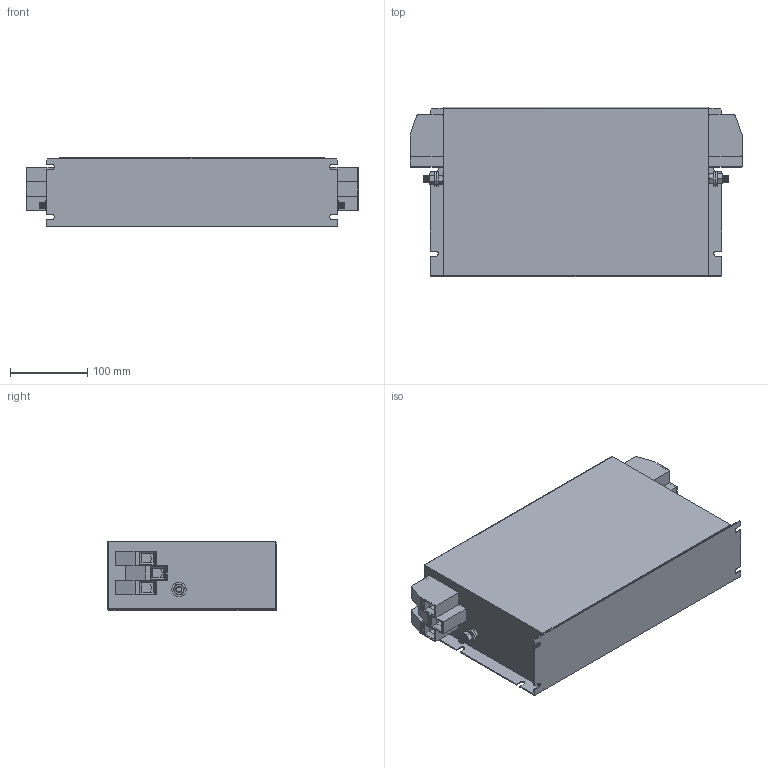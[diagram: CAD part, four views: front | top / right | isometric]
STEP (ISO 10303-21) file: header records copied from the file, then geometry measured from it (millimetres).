
FILE_DESCRIPTION (( 'STEP AP203' ), '1' );
FILE_NAME ('NF-R-100.STEP', '2022-02-11T08:42:50', ( '' ), ( '' ), 'SwSTEP 2.0', 'SolidWorks 2017', '' );
FILE_SCHEMA (( 'CONFIG_CONTROL_DESIGN' ));
Length unit declared in the file: millimetre
Products named in the file (7): NF-R-100; hex screw_am_B18.6.7M - M8 x 1.25 x 20 Plain HHMS --20S; flat washer narrow_am_B18.22M - Plain washer, 8 mm, narrow; M8x20 Earth post; HDFK-50; hex nut style 1_am_B18.2.4.1M - Hex nut, Style 1,  M8 x 1.25 --D-N
Assembly tree (13 placements, depth 3):
  NF-R-100
    NF-R-100
    M8x20 Earth post  x2
      hex screw_am_B18.6.7M - M8 x 1.25 x 20 Plain HHMS --20S
      flat washer narrow_am_B18.22M - Plain washer, 8 mm, narrow
      hex nut style 1_am_B18.2.4.1M - Hex nut, Style 1,  M8 x 1.25 --D-N
    HDFK-50  x6
Bounding box: 431.01 x 220 x 90 mm (x, y, z)
Volume: 6839047.7 mm3; surface area: 419129.2 mm2
Topology: 15 solids, 15 shells, 733 faces, 1793 edges, 1138 vertices
Faces by surface type: plane 391, cylinder 172, cone 168, sphere 2
Entity records: 9452 total; most frequent: CARTESIAN_POINT 1652, DIRECTION 1503, ORIENTED_EDGE 1406, EDGE_CURVE 703, AXIS2_PLACEMENT_3D 543, VERTEX_POINT 444, VECTOR 417, LINE 417
